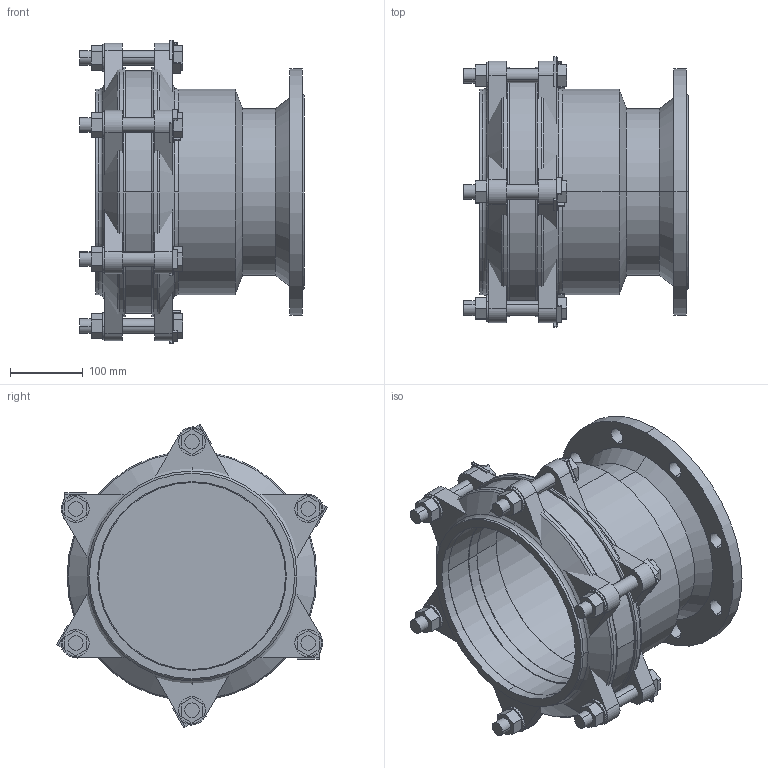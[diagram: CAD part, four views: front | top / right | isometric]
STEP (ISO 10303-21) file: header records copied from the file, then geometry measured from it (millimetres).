
FILE_DESCRIPTION(('STEP AP214'),'1');
FILE_NAME('EM00005661 DN 200-225.STP','2015-01-29T13:57:26',(' '),(' '),'Spatial InterOp 3D',' ',' ');
FILE_SCHEMA(('automotive_design'));
Length unit declared in the file: millimetre
Products named in the file (34): 3D-Objekt
Bounding box: 310 x 373.46 x 417.96 mm (x, y, z)
Volume: 6801881.6 mm3; surface area: 1440895.9 mm2
Topology: 34 solids, 34 shells, 417 faces, 972 edges, 646 vertices
Faces by surface type: plane 271, cylinder 118, cone 16, torus 12
Entity records: 16104 total; most frequent: DIRECTION 2172, CARTESIAN_POINT 2069, ORIENTED_EDGE 1944, EDGE_CURVE 972, AXIS2_PLACEMENT_3D 749, LINE 674, VECTOR 674, VERTEX_POINT 646
